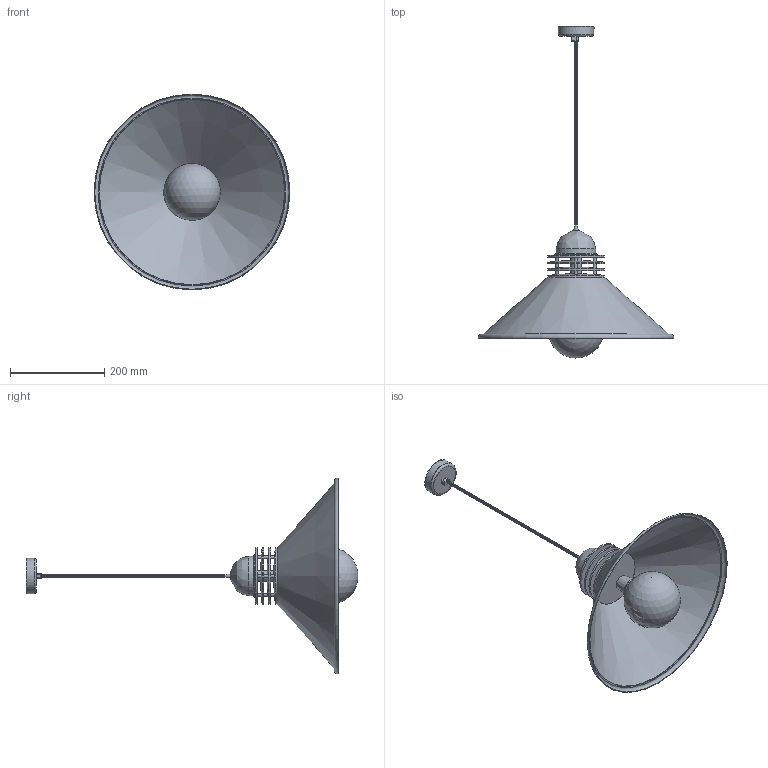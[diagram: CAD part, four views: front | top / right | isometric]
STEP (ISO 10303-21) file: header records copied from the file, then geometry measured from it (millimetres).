
FILE_DESCRIPTION(/* description */ (''),/* implementation_level */ '2;1');
FILE_NAME(/* name */ 'C:\Users\Dominika\Desktop\Modele CZARNY\SOUL 03\LAMPA SOUL 03.stp',/* time_stamp */ '2019-12-05T20:48:22+01:00',/* author */ ('Dominika'),/* organization */ (''),/* preprocessor_version */ 'ST-DEVELOPER v17',/* originating_system */ 'Autodesk Inventor 2019',/* authorisation */ '');
FILE_SCHEMA (('AUTOMOTIVE_DESIGN { 1 0 10303 214 3 1 1 }'));
Length unit declared in the file: millimetre
Products named in the file (16): LAMPA SOUL 03; SOUL 02  klosz I; SOUL 02 klosz III; SOUL 02 łącznik II; SOUL 02 trzymacz kabla; SOUL 02 klosz II; BLUES kabel II; BLUES kabel I; soul 02 łącznik; B03 mocowanie zarowki; klosz II; SOUL 02  klosz I_1; 1. zespol mocowania do sciany; FUNK mocowanie do sciany; FUNK mocowanie kabla; sruba
Assembly tree (419 placements, depth 3):
  LAMPA SOUL 03
    SOUL 02  klosz I
    SOUL 02 klosz III
    SOUL 02 łącznik II
    SOUL 02 trzymacz kabla
    SOUL 02 klosz II  x4
    BLUES kabel II  x200
    BLUES kabel I  x200
    soul 02 łącznik  x4
    B03 mocowanie zarowki
    klosz II
    SOUL 02  klosz I_1
    1. zespol mocowania do sciany
      FUNK mocowanie do sciany
      FUNK mocowanie kabla
      sruba
Bounding box: 415.72 x 705.1 x 415.72 mm (x, y, z)
Volume: 1786190.6 mm3; surface area: 592746.7 mm2
Topology: 418 solids, 418 shells, 1306 faces, 1428 edges, 958 vertices
Faces by surface type: plane 851, cylinder 427, torus 12, bspline 10, cone 5, sphere 1
Full cylindrical faces by diameter (mm): 2.5 x1, 4 x2, 5 x400, 6 x6, 22 x1, 56.973 x1, 73 x1, 75 x1, 83.781 x1, 120 x4
Entity records: 6604 total; most frequent: DIRECTION 1363, CARTESIAN_POINT 1044, AXIS2_PLACEMENT_3D 647, PRODUCT_DEFINITION_SHAPE 435, ITEM_DEFINED_TRANSFORMATION 419, CONTEXT_DEPENDENT_SHAPE_REPRESENTATION 419, NEXT_ASSEMBLY_USAGE_OCCURRENCE 419, ORIENTED_EDGE 396
